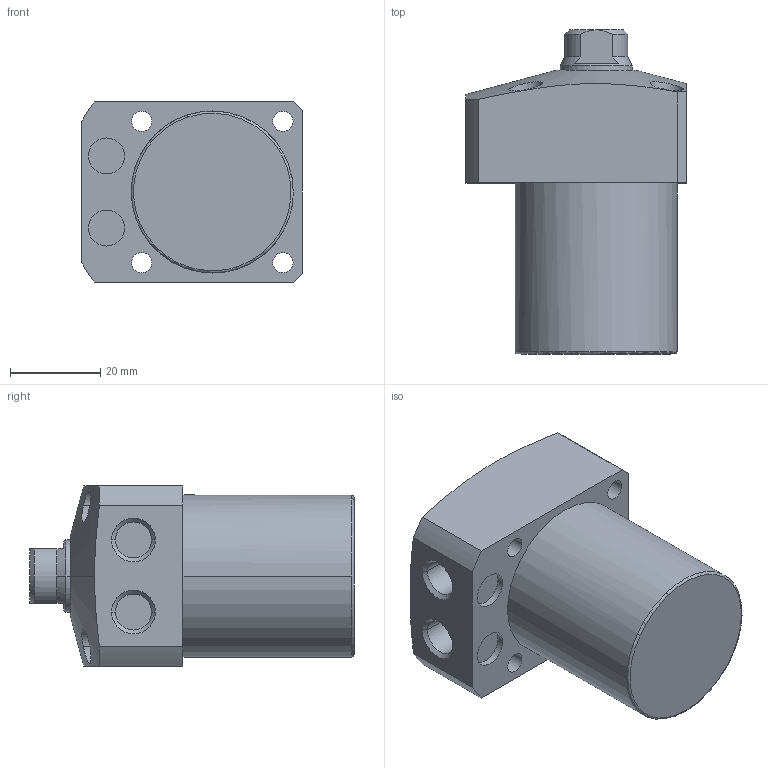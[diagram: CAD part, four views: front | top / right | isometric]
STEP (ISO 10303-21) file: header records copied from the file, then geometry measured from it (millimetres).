
FILE_DESCRIPTION((' '),'2;1');
FILE_NAME( 'TLL-036CA-030.STEP.stp', '2025-10-24T16:39:36', (' '), ('--- Datakit www.datakit.com---'), ' Datakit CrossCadWare V2024.1 Dec 21 2023', 'Mastercam 2025', ' ');
FILE_SCHEMA(('AUTOMOTIVE_DESIGN { 1 0 10303 214 1 1 1 1 }'));
Length unit declared in the file: millimetre
Products named in the file (1): TLL-036CA-030
Bounding box: 49 x 72 x 40 mm (x, y, z)
Volume: 80121.8 mm3; surface area: 14473.2 mm2
Topology: 1 solids, 1 shells, 72 faces, 209 edges, 148 vertices
Faces by surface type: cylinder 34, plane 22, cone 14, torus 2
Entity records: 4844 total; most frequent: CARTESIAN_POINT 2840, DIRECTION 430, ORIENTED_EDGE 414, EDGE_CURVE 207, AXIS2_PLACEMENT_3D 184, VERTEX_POINT 148, CIRCLE 111, EDGE_LOOP 91
